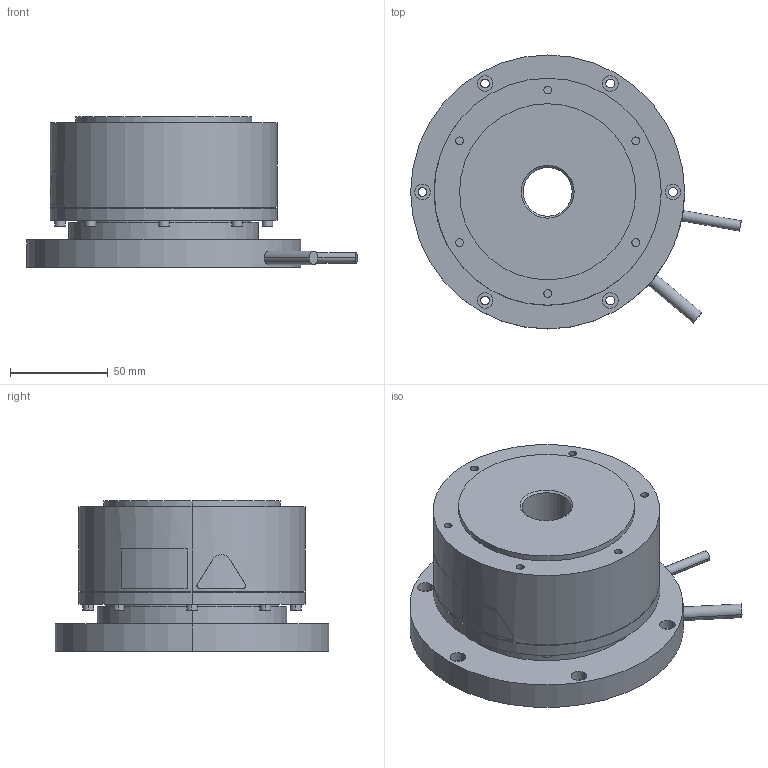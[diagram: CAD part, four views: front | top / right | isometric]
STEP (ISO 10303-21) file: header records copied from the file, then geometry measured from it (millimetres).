
FILE_DESCRIPTION (( 'STEP AP203' ), '1' );
FILE_NAME ('sgm7d_03h_c42.STEP', '2016-02-23T04:33:14', ( '' ), ( '' ), 'SwSTEP 2.0', 'SolidWorks 2010', '' );
FILE_SCHEMA (( 'CONFIG_CONTROL_DESIGN' ));
Length unit declared in the file: millimetre
Products named in the file (1): sgm7d_03h_c42
Bounding box: 168.94 x 140 x 77 mm (x, y, z)
Volume: 797317.3 mm3; surface area: 76922.7 mm2
Topology: 1 solids, 1 shells, 125 faces, 268 edges, 178 vertices
Faces by surface type: cylinder 80, plane 38, bspline 5, cone 2
Entity records: 4021 total; most frequent: CARTESIAN_POINT 1085, DIRECTION 650, ORIENTED_EDGE 536, AXIS2_PLACEMENT_3D 281, EDGE_CURVE 268, VERTEX_POINT 178, EDGE_LOOP 172, CIRCLE 160
